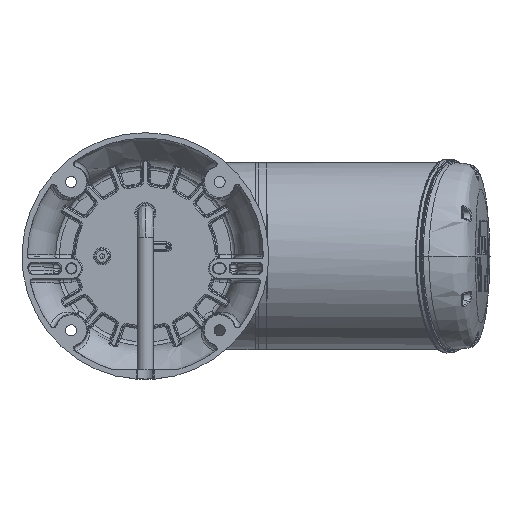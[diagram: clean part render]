
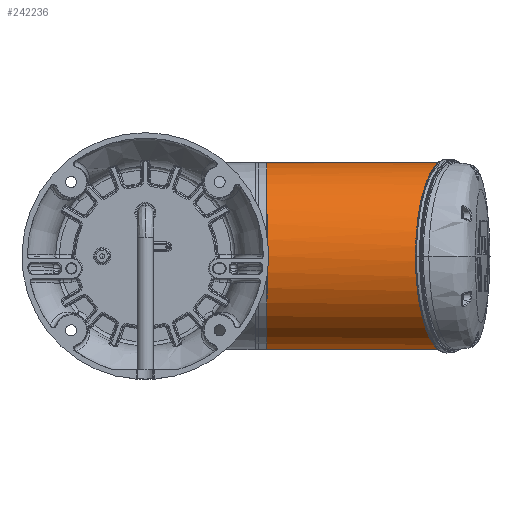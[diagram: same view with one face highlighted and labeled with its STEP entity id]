
A CAD part, front view. The second image highlights one B-rep face of the part: STEP entity #242236.
In plain terms, the highlighted cylindrical face has radius 76 mm (diameter 152 mm), a partial arc.
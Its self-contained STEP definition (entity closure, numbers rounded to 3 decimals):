
#1049 = LINE ( 'NONE', #18880, #262281 ) ;
#5174 = CARTESIAN_POINT ( 'NONE',  ( -76., 1.202, 71.626 ) ) ;
#14826 = CARTESIAN_POINT ( 'NONE',  ( -76., 153.202, 23.7 ) ) ;
#18880 = CARTESIAN_POINT ( 'NONE',  ( -76., 1.202, -76. ) ) ;
#19887 = CIRCLE ( 'NONE', #139555, 76. ) ;
#24504 = CARTESIAN_POINT ( 'NONE',  ( -76., 1.202, -76. ) ) ;
#27278 = DIRECTION ( 'NONE',  ( 0., -1., 0. ) ) ;
#35305 = DIRECTION ( 'NONE',  ( 0., 0., 1. ) ) ;
#38679 = EDGE_CURVE ( 'NONE', #161013, #96060, #254490, .T. ) ;
#51344 = VERTEX_POINT ( 'NONE', #59972 ) ;
#56475 = CARTESIAN_POINT ( 'NONE',  ( 76., 153.202, 23.7 ) ) ;
#59972 = CARTESIAN_POINT ( 'NONE',  ( 76., 1.202, -76. ) ) ;
#70339 = DIRECTION ( 'NONE',  ( 0., 0., -1. ) ) ;
#71649 = CARTESIAN_POINT ( 'NONE',  ( 0., 1.202, -76. ) ) ;
#75992 = DIRECTION ( 'NONE',  ( 0., -1., 0. ) ) ;
#77753 = CARTESIAN_POINT ( 'NONE',  ( 76., 1.202, 71.626 ) ) ;
#85922 = ORIENTED_EDGE ( 'NONE', *, *, #271577, .T. ) ;
#96060 = VERTEX_POINT ( 'NONE', #240741 ) ;
#103677 = EDGE_CURVE ( 'NONE', #96060, #51344, #191615, .T. ) ;
#114174 = DIRECTION ( 'NONE',  ( 0., 0., 1. ) ) ;
#129601 = AXIS2_PLACEMENT_3D ( 'NONE', #71649, #114174, #27278 ) ;
#132806 = VERTEX_POINT ( 'NONE', #24504 ) ;
#139555 = AXIS2_PLACEMENT_3D ( 'NONE', #267212, #35305, #75992 ) ;
#139628 = ORIENTED_EDGE ( 'NONE', *, *, #235682, .T. ) ;
#157246 = ORIENTED_EDGE ( 'NONE', *, *, #38679, .T. ) ;
#160781 = EDGE_LOOP ( 'NONE', ( #258285, #85922, #139628, #157246 ) ) ;
#161013 = VERTEX_POINT ( 'NONE', #5174 ) ;
#166702 = DIRECTION ( 'NONE',  ( 0., 0., 1. ) ) ;
#191615 = LINE ( 'NONE', #218126, #274416 ) ;
#207899 = CARTESIAN_POINT ( 'NONE',  ( -76., 1.202, 71.626 ) ) ;
#218126 = CARTESIAN_POINT ( 'NONE',  ( 76., 1.202, -76. ) ) ;
#235682 = EDGE_CURVE ( 'NONE', #132806, #161013, #1049, .T. ) ;
#240741 = CARTESIAN_POINT ( 'NONE',  ( 76., 1.202, 71.626 ) ) ;
#242236 = ADVANCED_FACE ( 'NONE', ( #260035 ), #243627, .T. ) ;
#243627 = CYLINDRICAL_SURFACE ( 'NONE', #129601, 76. ) ;
#254490 =( BOUNDED_CURVE ( )  B_SPLINE_CURVE ( 3, ( #207899, #14826, #56475, #77753 ),
 .UNSPECIFIED., .F., .F. ) 
 B_SPLINE_CURVE_WITH_KNOTS ( ( 4, 4 ),
 ( 1.571, 4.712 ),
 .UNSPECIFIED. ) 
 CURVE ( )  GEOMETRIC_REPRESENTATION_ITEM ( )  RATIONAL_B_SPLINE_CURVE ( ( 1., 0.333, 0.333, 1. ) ) 
 REPRESENTATION_ITEM ( '' )  );
#258285 = ORIENTED_EDGE ( 'NONE', *, *, #103677, .T. ) ;
#260035 = FACE_OUTER_BOUND ( 'NONE', #160781, .T. ) ;
#262281 = VECTOR ( 'NONE', #166702, 1000. ) ;
#267212 = CARTESIAN_POINT ( 'NONE',  ( 0., 1.202, -76. ) ) ;
#271577 = EDGE_CURVE ( 'NONE', #51344, #132806, #19887, .T. ) ;
#274416 = VECTOR ( 'NONE', #70339, 1000. ) ;
